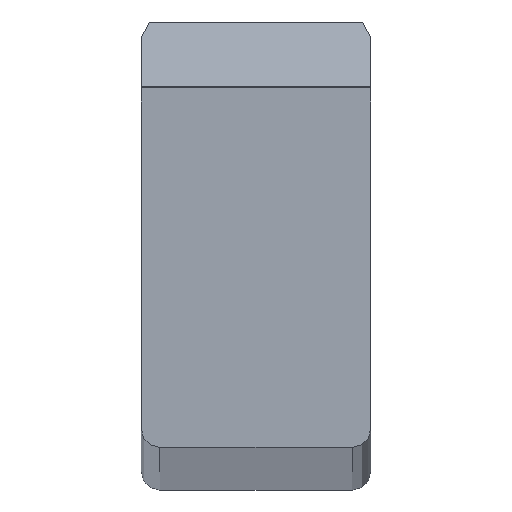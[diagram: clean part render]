
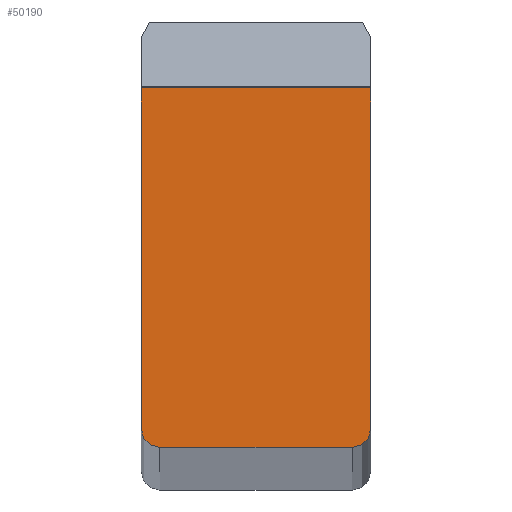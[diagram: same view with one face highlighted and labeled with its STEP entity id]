
A CAD part, top view. The second image highlights one B-rep face of the part: STEP entity #50190.
In plain terms, the highlighted planar face has unit normal (0, 0, 1).
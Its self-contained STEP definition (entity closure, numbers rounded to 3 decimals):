
#58 = DIRECTION ( 'NONE',  ( -1., 0., 0. ) ) ;
#2047 = CARTESIAN_POINT ( 'NONE',  ( 0., 1.2, 1600. ) ) ;
#2764 = CARTESIAN_POINT ( 'NONE',  ( 0., 23.55, 1600. ) ) ;
#2992 = EDGE_LOOP ( 'NONE', ( #38103, #45604, #12676, #27088, #45734, #49585 ) ) ;
#3900 = AXIS2_PLACEMENT_3D ( 'NONE', #26475, #41926, #7212 ) ;
#4886 = VECTOR ( 'NONE', #28761, 1000. ) ;
#5724 = VERTEX_POINT ( 'NONE', #29959 ) ;
#7212 = DIRECTION ( 'NONE',  ( -1., 0., 0. ) ) ;
#8119 = VERTEX_POINT ( 'NONE', #2047 ) ;
#9260 = DIRECTION ( 'NONE',  ( 0., -1., 0. ) ) ;
#11220 = EDGE_CURVE ( 'NONE', #5724, #21380, #42991, .T. ) ;
#12198 = EDGE_CURVE ( 'NONE', #22684, #5724, #47118, .T. ) ;
#12249 = AXIS2_PLACEMENT_3D ( 'NONE', #46431, #23232, #58 ) ;
#12676 = ORIENTED_EDGE ( 'NONE', *, *, #35303, .T. ) ;
#12973 = CARTESIAN_POINT ( 'NONE',  ( 0., 0., 1600. ) ) ;
#13834 = VECTOR ( 'NONE', #9260, 1000. ) ;
#14312 = EDGE_CURVE ( 'NONE', #8119, #22684, #15419, .T. ) ;
#15154 = LINE ( 'NONE', #48139, #4886 ) ;
#15419 = CIRCLE ( 'NONE', #12249, 1.2 ) ;
#15645 = AXIS2_PLACEMENT_3D ( 'NONE', #17495, #44590, #21376 ) ;
#17094 = CARTESIAN_POINT ( 'NONE',  ( 0., 0., 1600. ) ) ;
#17495 = CARTESIAN_POINT ( 'NONE',  ( 13.8, 1.2, 1600. ) ) ;
#20598 = DIRECTION ( 'NONE',  ( 1., 0., 0. ) ) ;
#21376 = DIRECTION ( 'NONE',  ( -1., 0., 0. ) ) ;
#21380 = VERTEX_POINT ( 'NONE', #22261 ) ;
#22077 = CARTESIAN_POINT ( 'NONE',  ( 0., 23.55, 1600. ) ) ;
#22261 = CARTESIAN_POINT ( 'NONE',  ( 15., 1.2, 1600. ) ) ;
#22684 = VERTEX_POINT ( 'NONE', #36665 ) ;
#23232 = DIRECTION ( 'NONE',  ( 0., 0., 1. ) ) ;
#26475 = CARTESIAN_POINT ( 'NONE',  ( 0., 28., 1600. ) ) ;
#27088 = ORIENTED_EDGE ( 'NONE', *, *, #14312, .T. ) ;
#28761 = DIRECTION ( 'NONE',  ( 0., 1., 0. ) ) ;
#29959 = CARTESIAN_POINT ( 'NONE',  ( 13.8, 0., 1600. ) ) ;
#33089 = EDGE_CURVE ( 'NONE', #48668, #44423, #40753, .T. ) ;
#34434 = EDGE_CURVE ( 'NONE', #21380, #48668, #15154, .T. ) ;
#35303 = EDGE_CURVE ( 'NONE', #44423, #8119, #44774, .T. ) ;
#36665 = CARTESIAN_POINT ( 'NONE',  ( 1.2, 0., 1600. ) ) ;
#38103 = ORIENTED_EDGE ( 'NONE', *, *, #34434, .T. ) ;
#38981 = CARTESIAN_POINT ( 'NONE',  ( 15., 23.55, 1600. ) ) ;
#40753 = LINE ( 'NONE', #2764, #49854 ) ;
#41926 = DIRECTION ( 'NONE',  ( 0., 0., -1. ) ) ;
#42991 = CIRCLE ( 'NONE', #15645, 1.2 ) ;
#44423 = VERTEX_POINT ( 'NONE', #22077 ) ;
#44590 = DIRECTION ( 'NONE',  ( 0., 0., 1. ) ) ;
#44752 = FACE_OUTER_BOUND ( 'NONE', #2992, .T. ) ;
#44774 = LINE ( 'NONE', #17094, #13834 ) ;
#45406 = DIRECTION ( 'NONE',  ( -1., 0., 0. ) ) ;
#45604 = ORIENTED_EDGE ( 'NONE', *, *, #33089, .T. ) ;
#45734 = ORIENTED_EDGE ( 'NONE', *, *, #12198, .T. ) ;
#45837 = PLANE ( 'NONE',  #3900 ) ;
#45899 = VECTOR ( 'NONE', #20598, 1000. ) ;
#46431 = CARTESIAN_POINT ( 'NONE',  ( 1.2, 1.2, 1600. ) ) ;
#47118 = LINE ( 'NONE', #12973, #45899 ) ;
#48139 = CARTESIAN_POINT ( 'NONE',  ( 15., 0., 1600. ) ) ;
#48668 = VERTEX_POINT ( 'NONE', #38981 ) ;
#49585 = ORIENTED_EDGE ( 'NONE', *, *, #11220, .T. ) ;
#49854 = VECTOR ( 'NONE', #45406, 1000. ) ;
#50190 = ADVANCED_FACE ( 'NONE', ( #44752 ), #45837, .F. ) ;
